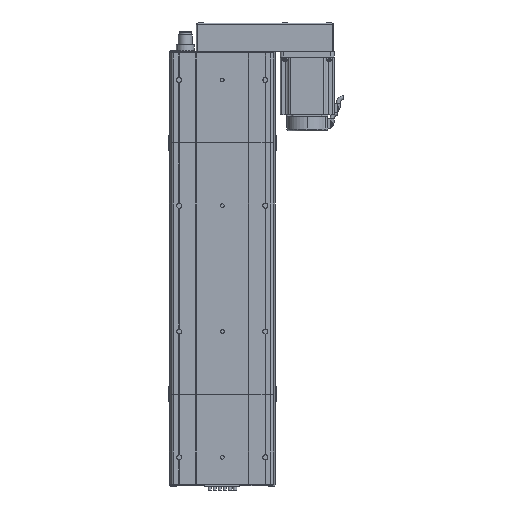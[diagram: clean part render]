
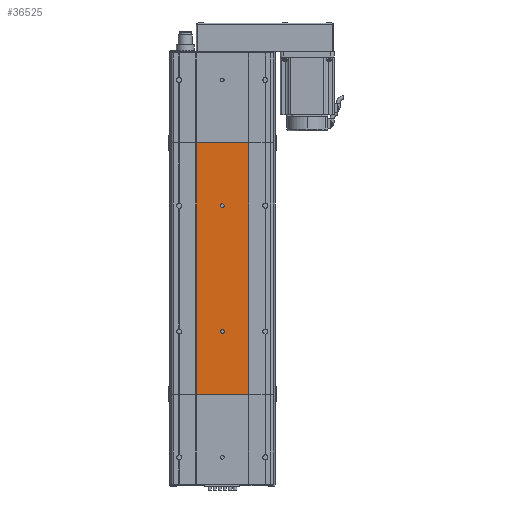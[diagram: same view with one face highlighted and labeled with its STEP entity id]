
A CAD part, front view. The second image highlights one B-rep face of the part: STEP entity #36525.
In plain terms, the highlighted planar face has unit normal (0, -1, 0).
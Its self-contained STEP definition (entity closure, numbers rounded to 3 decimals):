
#34808 = EDGE_LOOP ( 'NONE', ( #36401, #36521, #36416, #36526 ) ) ;
#36400 = VERTEX_POINT ( 'NONE', #88373 ) ;
#36401 = ORIENTED_EDGE ( 'NONE', *, *, #36403, .F. ) ;
#36403 = EDGE_CURVE ( 'NONE', #36472, #36534, #88640, .T. ) ;
#36409 = EDGE_LOOP ( 'NONE', ( #36527, #36508 ) ) ;
#36416 = ORIENTED_EDGE ( 'NONE', *, *, #36522, .T. ) ;
#36430 = EDGE_CURVE ( 'NONE', #36661, #36431, #88826, .T. ) ;
#36431 = VERTEX_POINT ( 'NONE', #88701 ) ;
#36472 = VERTEX_POINT ( 'NONE', #88903 ) ;
#36473 = VERTEX_POINT ( 'NONE', #88921 ) ;
#36482 = EDGE_CURVE ( 'NONE', #36656, #36652, #89123, .T. ) ;
#36508 = ORIENTED_EDGE ( 'NONE', *, *, #36482, .F. ) ;
#36509 = ORIENTED_EDGE ( 'NONE', *, *, #36430, .F. ) ;
#36521 = ORIENTED_EDGE ( 'NONE', *, *, #36543, .T. ) ;
#36522 = EDGE_CURVE ( 'NONE', #36473, #36400, #89323, .T. ) ;
#36525 = ADVANCED_FACE ( 'NONE', ( #89314, #89228, #89333 ), #89357, .F. ) ;
#36526 = ORIENTED_EDGE ( 'NONE', *, *, #36537, .F. ) ;
#36527 = ORIENTED_EDGE ( 'NONE', *, *, #36535, .F. ) ;
#36534 = VERTEX_POINT ( 'NONE', #89096 ) ;
#36535 = EDGE_CURVE ( 'NONE', #36652, #36656, #89342, .T. ) ;
#36536 = EDGE_LOOP ( 'NONE', ( #36540, #36509 ) ) ;
#36537 = EDGE_CURVE ( 'NONE', #36534, #36400, #88981, .T. ) ;
#36538 = EDGE_CURVE ( 'NONE', #36431, #36661, #88989, .T. ) ;
#36540 = ORIENTED_EDGE ( 'NONE', *, *, #36538, .F. ) ;
#36543 = EDGE_CURVE ( 'NONE', #36472, #36473, #88936, .T. ) ;
#36652 = VERTEX_POINT ( 'NONE', #89920 ) ;
#36656 = VERTEX_POINT ( 'NONE', #89905 ) ;
#36661 = VERTEX_POINT ( 'NONE', #89941 ) ;
#88373 = CARTESIAN_POINT ( 'NONE',  ( 41.5, 0., 0. ) ) ;
#88512 = VECTOR ( 'NONE', #88632, 1000. ) ;
#88632 = DIRECTION ( 'NONE',  ( 1., 0., 0. ) ) ;
#88639 = CARTESIAN_POINT ( 'NONE',  ( 0., 0., 400. ) ) ;
#88640 = LINE ( 'NONE', #88639, #88512 ) ;
#88693 = DIRECTION ( 'NONE',  ( 0., 0., -1. ) ) ;
#88695 = DIRECTION ( 'NONE',  ( 0., -1., 0. ) ) ;
#88701 = CARTESIAN_POINT ( 'NONE',  ( 0., 0., 97. ) ) ;
#88707 = CARTESIAN_POINT ( 'NONE',  ( 0., 0., 100. ) ) ;
#88826 = CIRCLE ( 'NONE', #88835, 3. ) ;
#88835 = AXIS2_PLACEMENT_3D ( 'NONE', #88707, #88695, #88693 ) ;
#88903 = CARTESIAN_POINT ( 'NONE',  ( -41.5, 0., 400. ) ) ;
#88921 = CARTESIAN_POINT ( 'NONE',  ( -41.5, 0., 0. ) ) ;
#88936 = LINE ( 'NONE', #88954, #89166 ) ;
#88954 = CARTESIAN_POINT ( 'NONE',  ( -41.5, 0., 400. ) ) ;
#88959 = DIRECTION ( 'NONE',  ( 0., 0., -1. ) ) ;
#88961 = DIRECTION ( 'NONE',  ( 0., -1., 0. ) ) ;
#88970 = DIRECTION ( 'NONE',  ( 0., 0., -1. ) ) ;
#88971 = VECTOR ( 'NONE', #88970, 1000. ) ;
#88972 = CARTESIAN_POINT ( 'NONE',  ( 41.5, 0., 400. ) ) ;
#88978 = DIRECTION ( 'NONE',  ( 0., 0., -1. ) ) ;
#88979 = DIRECTION ( 'NONE',  ( 0., -1., 0. ) ) ;
#88980 = CARTESIAN_POINT ( 'NONE',  ( 0., 0., 300. ) ) ;
#88981 = LINE ( 'NONE', #88972, #88971 ) ;
#88982 = AXIS2_PLACEMENT_3D ( 'NONE', #88984, #88961, #88959 ) ;
#88984 = CARTESIAN_POINT ( 'NONE',  ( 0., 0., 100. ) ) ;
#88989 = CIRCLE ( 'NONE', #88982, 3. ) ;
#89033 = CARTESIAN_POINT ( 'NONE',  ( 0., 0., 300. ) ) ;
#89053 = DIRECTION ( 'NONE',  ( 0., 0., -1. ) ) ;
#89055 = DIRECTION ( 'NONE',  ( 0., -1., 0. ) ) ;
#89096 = CARTESIAN_POINT ( 'NONE',  ( 41.5, 0., 400. ) ) ;
#89098 = AXIS2_PLACEMENT_3D ( 'NONE', #88980, #88979, #88978 ) ;
#89123 = CIRCLE ( 'NONE', #89276, 3. ) ;
#89165 = DIRECTION ( 'NONE',  ( 0., 0., -1. ) ) ;
#89166 = VECTOR ( 'NONE', #89165, 1000. ) ;
#89228 = FACE_OUTER_BOUND ( 'NONE', #34808, .T. ) ;
#89276 = AXIS2_PLACEMENT_3D ( 'NONE', #89033, #89055, #89053 ) ;
#89291 = DIRECTION ( 'NONE',  ( 0., 0., 1. ) ) ;
#89292 = DIRECTION ( 'NONE',  ( 0., 1., 0. ) ) ;
#89294 = CARTESIAN_POINT ( 'NONE',  ( 0., 0., 400. ) ) ;
#89309 = AXIS2_PLACEMENT_3D ( 'NONE', #89294, #89292, #89291 ) ;
#89314 = FACE_BOUND ( 'NONE', #36409, .T. ) ;
#89318 = DIRECTION ( 'NONE',  ( 1., 0., 0. ) ) ;
#89319 = VECTOR ( 'NONE', #89318, 1000. ) ;
#89321 = CARTESIAN_POINT ( 'NONE',  ( 0., 0., 0. ) ) ;
#89323 = LINE ( 'NONE', #89321, #89319 ) ;
#89333 = FACE_BOUND ( 'NONE', #36536, .T. ) ;
#89342 = CIRCLE ( 'NONE', #89098, 3. ) ;
#89357 = PLANE ( 'NONE',  #89309 ) ;
#89905 = CARTESIAN_POINT ( 'NONE',  ( 0., 0., 303. ) ) ;
#89920 = CARTESIAN_POINT ( 'NONE',  ( 0., 0., 297. ) ) ;
#89941 = CARTESIAN_POINT ( 'NONE',  ( 0., 0., 103. ) ) ;
